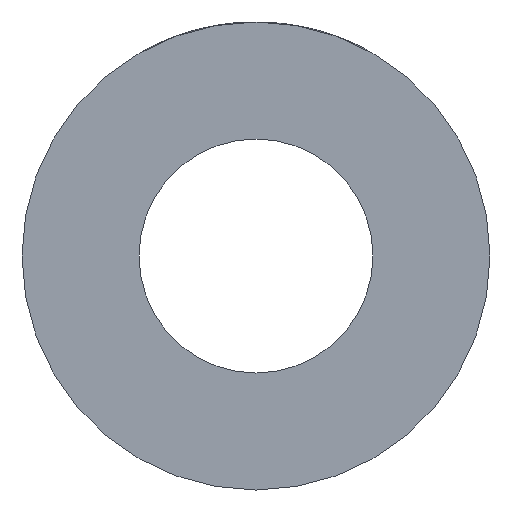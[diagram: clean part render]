
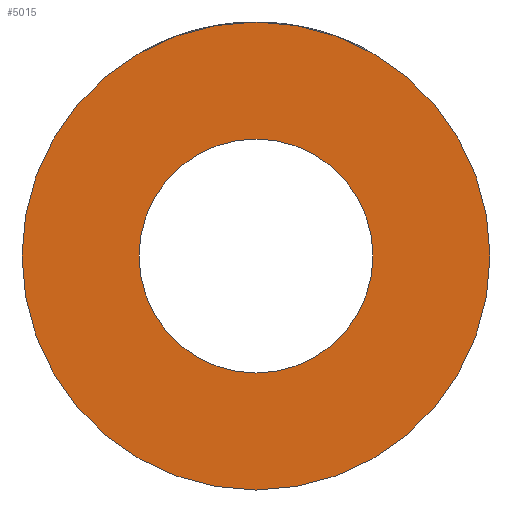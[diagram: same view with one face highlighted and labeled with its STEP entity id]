
A CAD part, left-side view. The second image highlights one B-rep face of the part: STEP entity #5015.
In plain terms, the highlighted planar face has unit normal (-1, 0, 0).
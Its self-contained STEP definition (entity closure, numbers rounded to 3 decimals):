
#110=PLANE('',#5400);
#343=CIRCLE('',#5398,4.);
#345=CIRCLE('',#5401,2.);
#1524=ORIENTED_EDGE('',*,*,#3048,.T.);
#1525=ORIENTED_EDGE('',*,*,#3046,.F.);
#3046=EDGE_CURVE('',#3807,#3807,#343,.T.);
#3048=EDGE_CURVE('',#3809,#3809,#345,.T.);
#3807=VERTEX_POINT('',#7755);
#3809=VERTEX_POINT('',#7760);
#4302=EDGE_LOOP('',(#1524));
#4303=EDGE_LOOP('',(#1525));
#4653=FACE_BOUND('',#4302,.T.);
#4654=FACE_BOUND('',#4303,.T.);
#5015=ADVANCED_FACE('',(#4653,#4654),#110,.F.);
#5398=AXIS2_PLACEMENT_3D('',#7754,#5915,#5916);
#5400=AXIS2_PLACEMENT_3D('',#7758,#5919,#5920);
#5401=AXIS2_PLACEMENT_3D('',#7759,#5921,#5922);
#5915=DIRECTION('',(1.,0.,0.));
#5916=DIRECTION('',(0.,0.,-1.));
#5919=DIRECTION('',(1.,0.,0.));
#5920=DIRECTION('',(0.,0.,-1.));
#5921=DIRECTION('',(1.,0.,0.));
#5922=DIRECTION('',(0.,0.,-1.));
#7754=CARTESIAN_POINT('',(-11.5,0.,0.));
#7755=CARTESIAN_POINT('',(-11.5,0.,-4.));
#7758=CARTESIAN_POINT('',(-11.5,0.,0.));
#7759=CARTESIAN_POINT('',(-11.5,0.,0.));
#7760=CARTESIAN_POINT('',(-11.5,0.,-2.));
